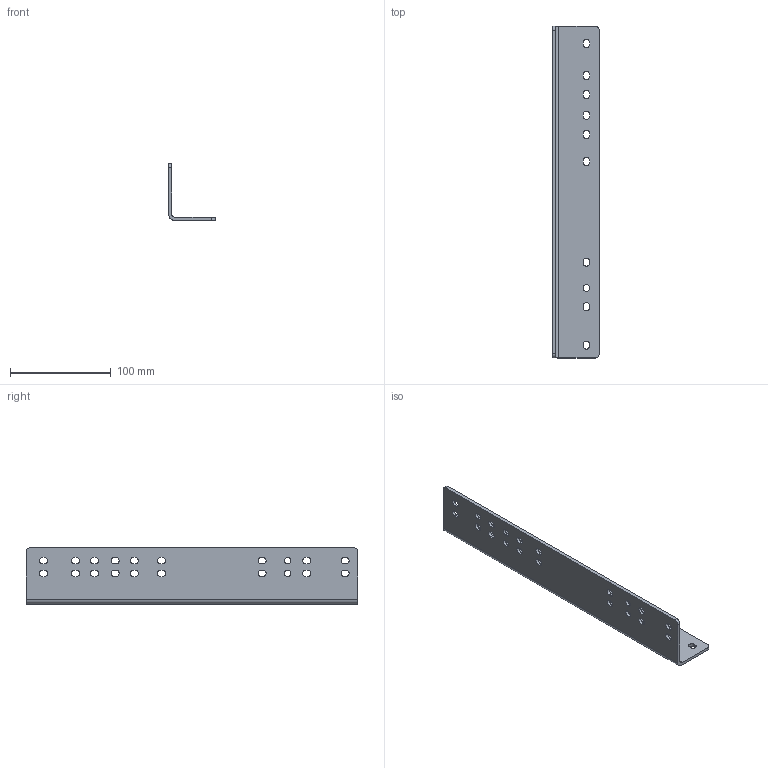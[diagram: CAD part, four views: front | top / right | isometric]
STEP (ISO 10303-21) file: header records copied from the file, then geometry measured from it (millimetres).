
FILE_DESCRIPTION(/* description */ (''),/* implementation_level */ '2;1');
FILE_NAME(/* name */ 'C:\Users\MelKon\Desktop\Neuer Ordner\WI-IN_2257619-330_links.stp',/* time_stamp */ '2017-10-24T13:38:29+02:00',/* author */ ('MelKon'),/* organization */ (''),/* preprocessor_version */ 'ST-DEVELOPER v15.6',/* originating_system */ 'Autodesk Inventor 2015',/* authorisation */ '');
FILE_SCHEMA (('AUTOMOTIVE_DESIGN { 1 0 10303 214 3 1 1 }'));
Length unit declared in the file: millimetre
Products named in the file (1): WI-IN_2257619-330_links
Bounding box: 46.2 x 330 x 55.9 mm (x, y, z)
Volume: 93210 mm3; surface area: 66378.2 mm2
Topology: 1 solids, 1 shells, 125 faces, 369 edges, 246 vertices
Faces by surface type: cylinder 63, plane 62
Full cylindrical faces by diameter (mm): 6.4 x3
Entity records: 4338 total; most frequent: DIRECTION 744, CARTESIAN_POINT 738, ORIENTED_EDGE 732, EDGE_CURVE 366, AXIS2_PLACEMENT_3D 252, VERTEX_POINT 246, LINE 240, VECTOR 240
